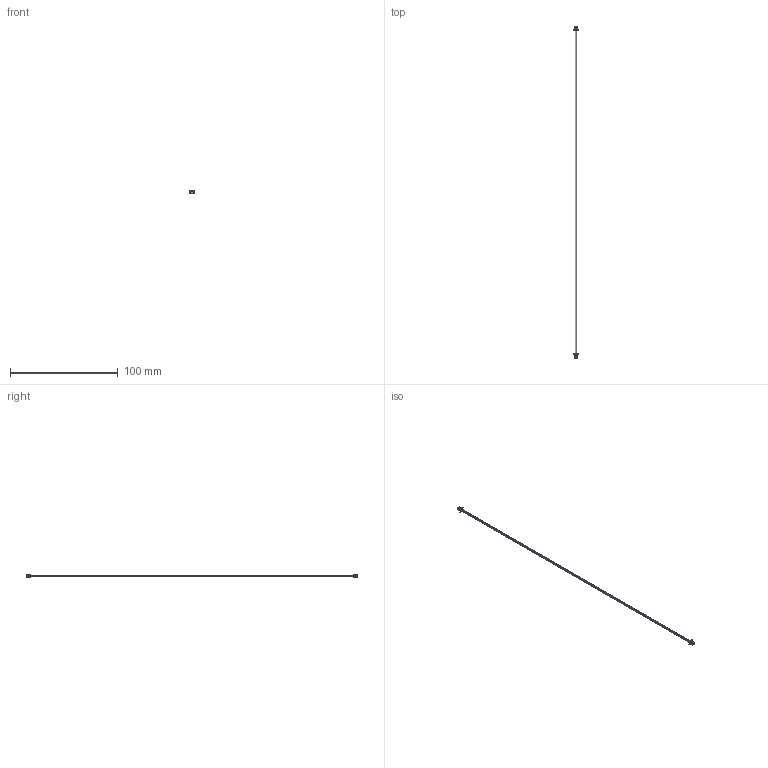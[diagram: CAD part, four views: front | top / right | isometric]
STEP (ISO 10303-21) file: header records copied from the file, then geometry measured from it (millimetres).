
FILE_DESCRIPTION((''),'2;1');
FILE_NAME('151340203','2019-12-25T',('gga'),(''),'PRO/ENGINEER BY PARAMETRIC TECHNOLOGY CORPORATION, 2016010','PRO/ENGINEER BY PARAMETRIC TECHNOLOGY CORPORATION, 2016010','');
FILE_SCHEMA(('CONFIG_CONTROL_DESIGN'));
Length unit declared in the file: millimetre
Products named in the file (1): 151340203
Bounding box: 4.25 x 307.9 x 3.2 mm (x, y, z)
Volume: 229.6 mm3; surface area: 1314.5 mm2
Topology: 1 solids, 1 shells, 237 faces, 627 edges, 402 vertices
Faces by surface type: plane 233, cylinder 4
Entity records: 7160 total; most frequent: CARTESIAN_POINT 1263, ORIENTED_EDGE 1250, DIRECTION 1111, EDGE_CURVE 625, VECTOR 619, LINE 619, VERTEX_POINT 398, EDGE_LOOP 247
